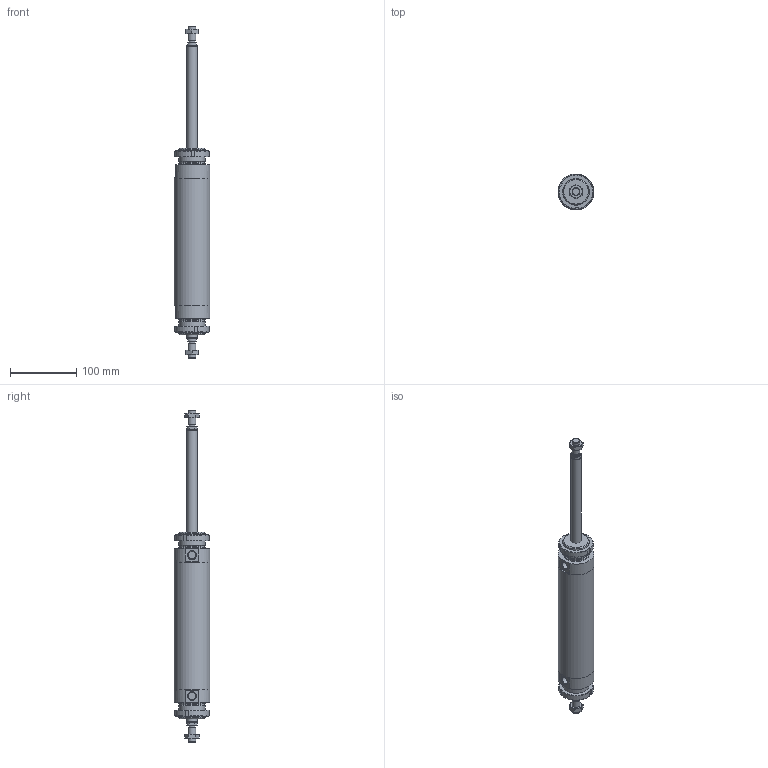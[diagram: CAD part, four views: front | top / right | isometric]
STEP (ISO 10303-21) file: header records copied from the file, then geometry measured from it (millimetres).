
FILE_DESCRIPTION(/* description */ (''),/* implementation_level */ '2;1');
FILE_NAME(/* name */ 'I:\Area Tecnica\Documenti\A-Manieri\_Inventor\12X\12X#S_###_####_#_#\12XCS_050_0150_#_#.stp',/* time_stamp */ '2015-05-08T14:18:49+02:00',/* author */ ('maniean1'),/* organization */ ('Pneumax S.p.A.'),/* preprocessor_version */ 'ST-DEVELOPER v15.2',/* originating_system */ 'Autodesk Inventor 2014',/* authorisation */ '');
FILE_SCHEMA (('AUTOMOTIVE_DESIGN { 1 0 10303 214 3 1 1 }'));
Length unit declared in the file: millimetre
Products named in the file (6): C1250_619-0150; 12X50_604; SP12X50_0150; 12X_50_11; G12X_050_05; 12XCS_050_0150_#_#
Bounding box: 54 x 54 x 502 mm (x, y, z)
Volume: 387668.6 mm3; surface area: 133131.1 mm2
Topology: 8 solids, 8 shells, 133 faces, 303 edges, 194 vertices
Faces by surface type: plane 66, cone 34, cylinder 33
Full cylindrical faces by diameter (mm): 10.2 x2, 11.4 x2, 12 x4, 14 x2, 15.6 x2, 16 x2, 38.2 x2, 40 x6, 50 x2, 54 x3
Entity records: 2300 total; most frequent: CARTESIAN_POINT 435, DIRECTION 388, ORIENTED_EDGE 310, AXIS2_PLACEMENT_3D 166, EDGE_CURVE 155, EDGE_LOOP 130, VERTEX_POINT 117, ADVANCED_FACE 85
